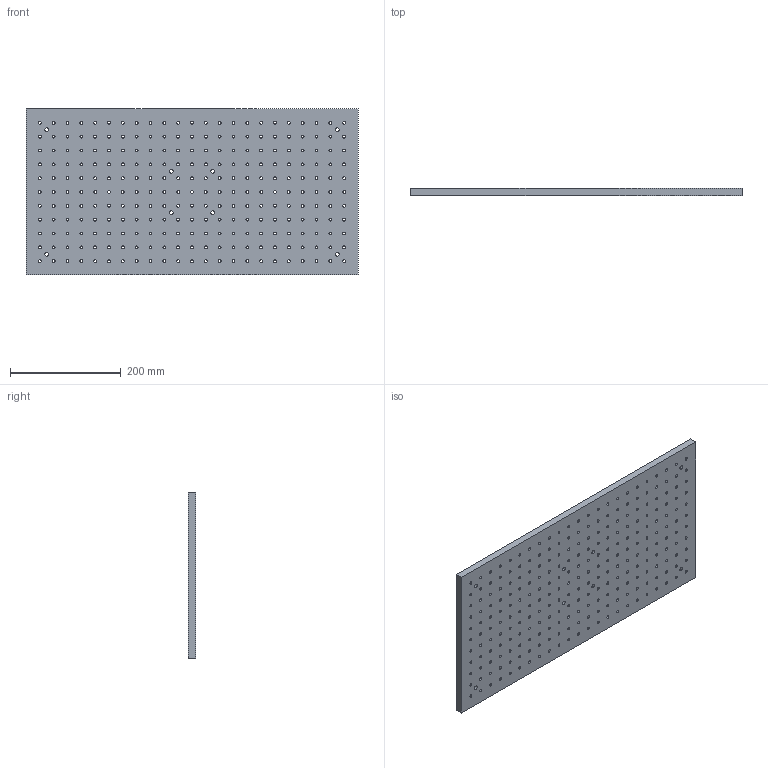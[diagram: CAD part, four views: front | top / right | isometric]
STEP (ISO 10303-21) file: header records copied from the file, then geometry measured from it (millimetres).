
FILE_DESCRIPTION (( 'STEP AP203' ), '1' );
FILE_NAME ('OTSB3060-13(AP203).STEP', '2022-02-28T09:08:41', ( '' ), ( '' ), 'SwSTEP 2.0', 'SolidWorks 2021', '' );
FILE_SCHEMA (( 'CONFIG_CONTROL_DESIGN' ));
Length unit declared in the file: millimetre
Products named in the file (1): OTSB3060-13(AP203)
Bounding box: 600 x 13.05 x 300 mm (x, y, z)
Volume: 2268267.1 mm3; surface area: 428138.3 mm2
Topology: 11 solids, 11 shells, 712 faces, 2046 edges, 1364 vertices
Faces by surface type: cylinder 538, plane 174
Entity records: 24987 total; most frequent: DIRECTION 4548, CARTESIAN_POINT 4123, ORIENTED_EDGE 4092, EDGE_CURVE 2046, AXIS2_PLACEMENT_3D 1789, VERTEX_POINT 1364, EDGE_LOOP 1242, CIRCLE 1076
